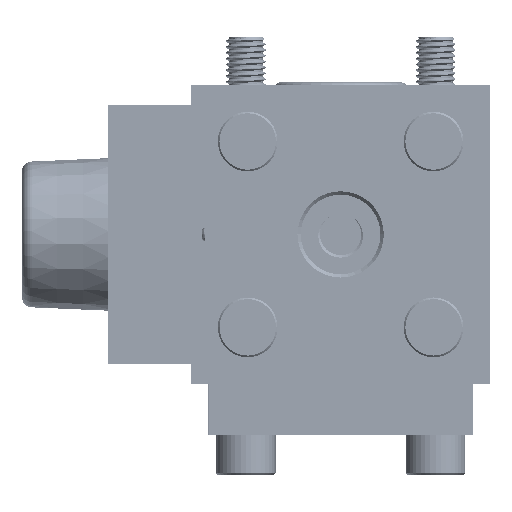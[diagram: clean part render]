
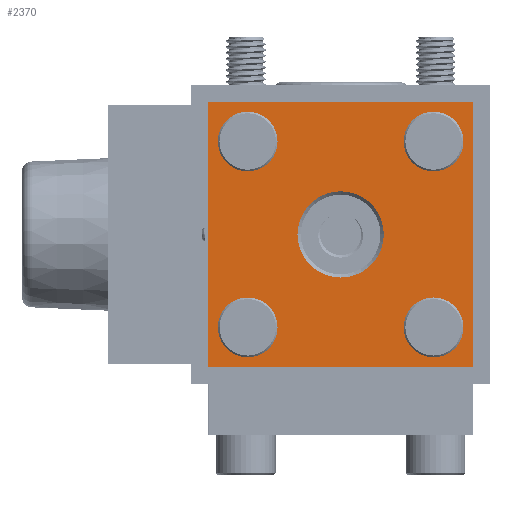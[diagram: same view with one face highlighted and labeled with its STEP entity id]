
A CAD part, left-side view. The second image highlights one B-rep face of the part: STEP entity #2370.
In plain terms, the highlighted planar face has unit normal (-1, 0, 0).
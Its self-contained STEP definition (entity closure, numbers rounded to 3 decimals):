
#469=LINE('',#30871,#861);
#470=LINE('',#30874,#862);
#471=LINE('',#30876,#863);
#472=LINE('',#30878,#864);
#861=VECTOR('',#8893,1.);
#862=VECTOR('',#8894,1.);
#863=VECTOR('',#8895,1.);
#864=VECTOR('',#8896,1.);
#1932=PLANE('',#7862);
#2370=ADVANCED_FACE('',(#2867,#2868,#2869,#2870,#2871,#2872),#1932,.F.);
#2867=FACE_BOUND('',#3376,.T.);
#2868=FACE_BOUND('',#3377,.T.);
#2869=FACE_BOUND('',#3378,.T.);
#2870=FACE_BOUND('',#3379,.T.);
#2871=FACE_BOUND('',#3380,.T.);
#2872=FACE_BOUND('',#3381,.T.);
#3376=EDGE_LOOP('',(#4353));
#3377=EDGE_LOOP('',(#4354));
#3378=EDGE_LOOP('',(#4355));
#3379=EDGE_LOOP('',(#4356));
#3380=EDGE_LOOP('',(#4357));
#3381=EDGE_LOOP('',(#4358,#4359,#4360,#4361));
#4353=ORIENTED_EDGE('',*,*,#6673,.T.);
#4354=ORIENTED_EDGE('',*,*,#6674,.T.);
#4355=ORIENTED_EDGE('',*,*,#6675,.T.);
#4356=ORIENTED_EDGE('',*,*,#6676,.T.);
#4357=ORIENTED_EDGE('',*,*,#6677,.F.);
#4358=ORIENTED_EDGE('',*,*,#6678,.T.);
#4359=ORIENTED_EDGE('',*,*,#6679,.F.);
#4360=ORIENTED_EDGE('',*,*,#6680,.F.);
#4361=ORIENTED_EDGE('',*,*,#6681,.T.);
#5924=VERTEX_POINT('',#30862);
#5925=VERTEX_POINT('',#30864);
#5926=VERTEX_POINT('',#30866);
#5927=VERTEX_POINT('',#30868);
#5928=VERTEX_POINT('',#30870);
#5929=VERTEX_POINT('',#30872);
#5930=VERTEX_POINT('',#30873);
#5931=VERTEX_POINT('',#30875);
#5932=VERTEX_POINT('',#30877);
#6673=EDGE_CURVE('',#5924,#5924,#7460,.T.);
#6674=EDGE_CURVE('',#5925,#5925,#7461,.T.);
#6675=EDGE_CURVE('',#5926,#5926,#7462,.T.);
#6676=EDGE_CURVE('',#5927,#5927,#7463,.T.);
#6677=EDGE_CURVE('',#5928,#5928,#7464,.T.);
#6678=EDGE_CURVE('',#5929,#5930,#469,.T.);
#6679=EDGE_CURVE('',#5931,#5930,#470,.T.);
#6680=EDGE_CURVE('',#5932,#5931,#471,.T.);
#6681=EDGE_CURVE('',#5932,#5929,#472,.T.);
#7460=CIRCLE('',#7857,9.);
#7461=CIRCLE('',#7858,9.);
#7462=CIRCLE('',#7859,9.);
#7463=CIRCLE('',#7860,9.);
#7464=CIRCLE('',#7861,13.);
#7857=AXIS2_PLACEMENT_3D('',#30861,#8883,#8884);
#7858=AXIS2_PLACEMENT_3D('',#30863,#8885,#8886);
#7859=AXIS2_PLACEMENT_3D('',#30865,#8887,#8888);
#7860=AXIS2_PLACEMENT_3D('',#30867,#8889,#8890);
#7861=AXIS2_PLACEMENT_3D('',#30869,#8891,#8892);
#7862=AXIS2_PLACEMENT_3D('',#30879,#8897,#8898);
#8883=DIRECTION('',(1.,0.,0.));
#8884=DIRECTION('',(0.,0.,-1.));
#8885=DIRECTION('',(1.,0.,0.));
#8886=DIRECTION('',(0.,0.,-1.));
#8887=DIRECTION('',(1.,0.,0.));
#8888=DIRECTION('',(0.,0.,-1.));
#8889=DIRECTION('',(1.,0.,0.));
#8890=DIRECTION('',(0.,0.,-1.));
#8891=DIRECTION('',(-1.,0.,0.));
#8892=DIRECTION('',(0.,0.,1.));
#8893=DIRECTION('',(0.,-1.,0.));
#8894=DIRECTION('',(0.,0.,-1.));
#8895=DIRECTION('',(0.,-1.,0.));
#8896=DIRECTION('',(0.,0.,-1.));
#8897=DIRECTION('',(1.,0.,0.));
#8898=DIRECTION('',(0.,0.,1.));
#30861=CARTESIAN_POINT('',(93.918,220.658,-28.));
#30862=CARTESIAN_POINT('',(93.918,220.658,-37.));
#30863=CARTESIAN_POINT('',(93.918,220.658,28.));
#30864=CARTESIAN_POINT('',(93.918,220.658,19.));
#30865=CARTESIAN_POINT('',(93.918,276.658,-28.));
#30866=CARTESIAN_POINT('',(93.918,276.658,-37.));
#30867=CARTESIAN_POINT('',(93.918,276.658,28.));
#30868=CARTESIAN_POINT('',(93.918,276.658,19.));
#30869=CARTESIAN_POINT('',(93.918,248.658,0.));
#30870=CARTESIAN_POINT('',(93.918,248.658,13.));
#30871=CARTESIAN_POINT('',(93.918,287.658,-40.));
#30872=CARTESIAN_POINT('',(93.918,288.658,-40.));
#30873=CARTESIAN_POINT('',(93.918,208.658,-40.));
#30874=CARTESIAN_POINT('',(93.918,208.658,40.));
#30875=CARTESIAN_POINT('',(93.918,208.658,40.));
#30876=CARTESIAN_POINT('',(93.918,287.658,40.));
#30877=CARTESIAN_POINT('',(93.918,288.658,40.));
#30878=CARTESIAN_POINT('',(93.918,288.658,40.));
#30879=CARTESIAN_POINT('',(93.918,287.658,40.));
